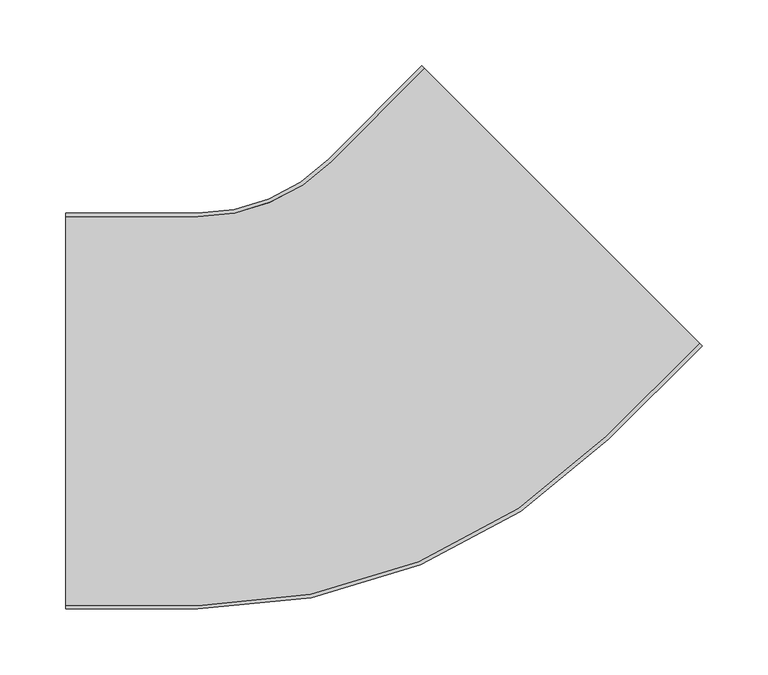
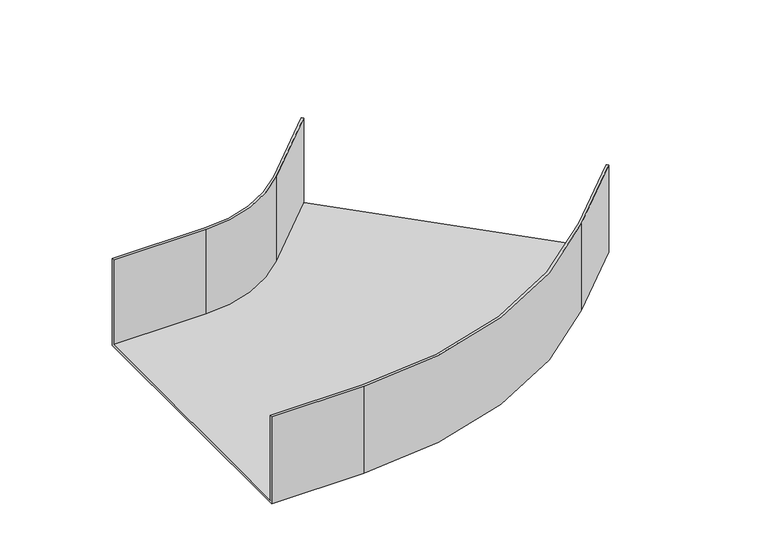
"""IFC4 building model written with IfcOpenShell, lengths in millimetres: cable carrier fitting geometry, BAKS_Horizontal bend radius : KKPJ/KKMPJ_H100."""

from ifc_helpers import new_model, si_unit, frame, origin, place, context, project, spatial, polyline, circle_curve, source, transform, mapped, element, save
from ifc_brep_helpers import plane_surface, cylinder_surface, revolved_surface, advanced_brep


def cable_carrier_fitting_1d3f857e(model_context):
    return source(origin(), model_context, "Body", "AdvancedBrep", [
        advanced_brep(
        [(-220.1219331, -150.0, -50.0), (-220.1219331, -150.0, 50.0), (-220.1219331, -147.46, 50.0), (-220.1219331, -147.46, -47.46), (-220.1219331, 147.46, -47.46), (-220.1219331, 147.46, 50.0), (-220.1219331, 150.0, 50.0), (-220.1219331, 150.0, -50.0), (261.7157288, 49.5836944, -50.0), (49.5836944, 261.7157288, -50.0), (49.5836944, 261.7157288, 50.0), (51.3797456, 259.9196775, 50.0), (51.3797456, 259.9196775, -47.46), (259.9196775, 51.3797456, -47.46), (259.9196775, 51.3797456, 50.0), (261.7157288, 49.5836944, 50.0), (-120.1219331, -150.0, -50.0), (-120.1219331, -150.0, 50.0), (191.0050506, -21.1269837, 50.0), (189.2089994, -19.3309325, 50.0), (-120.1219331, -147.46, 50.0), (-120.1219331, -147.46, -47.46), (189.2089994, -19.3309325, -47.46), (-19.3309325, 189.2089994, -47.46), (-120.1219331, 147.46, -47.46), (-120.1219331, 147.46, 50.0), (-19.3309325, 189.2089994, 50.0), (-21.1269837, 191.0050506, 50.0), (-120.1219331, 150.0, 50.0), (-120.1219331, 150.0, -50.0), (-21.1269837, 191.0050506, -50.0), (191.0050506, -21.1269837, -50.0)],
        [
            (0, 1),
            (1, 2),
            (2, 3),
            (3, 4),
            (4, 5),
            (5, 6),
            (6, 7),
            (7, 0),
            (8, 9),
            (9, 10),
            (10, 11),
            (11, 12),
            (12, 13),
            (13, 14),
            (14, 15),
            (15, 8),
            (0, 16),
            (16, 17),
            (17, 1),
            (17, 18, circle_curve(frame((-120.1219331, 290.0, 50.0), z_axis=(0.0, 0.0, 1.0), x_axis=(0.0, -1.0, 0.0)), 440.0)),
            (18, 15),
            (14, 19),
            (19, 20, circle_curve(frame((-120.1219331, 290.0, 50.0), z_axis=(0.0, 0.0, -1.0), x_axis=(0.0, -1.0, 0.0)), 437.46)),
            (20, 2),
            (20, 21),
            (21, 3),
            (21, 22, circle_curve(frame((-120.1219331, 290.0, -47.46), z_axis=(0.0, 0.0, 1.0), x_axis=(0.0, -1.0, 0.0)), 437.46)),
            (22, 13),
            (12, 23),
            (23, 24, circle_curve(frame((-120.1219331, 290.0, -47.46), z_axis=(0.0, 0.0, -1.0), x_axis=(0.0, -1.0, 0.0)), 142.54)),
            (24, 4),
            (24, 25),
            (25, 5),
            (25, 26, circle_curve(frame((-120.1219331, 290.0, 50.0), z_axis=(0.0, 0.0, 1.0), x_axis=(0.0, -1.0, 0.0)), 142.54)),
            (26, 11),
            (10, 27),
            (27, 28, circle_curve(frame((-120.1219331, 290.0, 50.0), z_axis=(0.0, 0.0, -1.0), x_axis=(0.0, -1.0, 0.0)), 140.0)),
            (28, 6),
            (28, 29),
            (29, 7),
            (29, 30, circle_curve(frame((-120.1219331, 290.0, -50.0), z_axis=(0.0, 0.0, 1.0), x_axis=(0.0, -1.0, 0.0)), 140.0)),
            (30, 9),
            (8, 31),
            (31, 16, circle_curve(frame((-120.1219331, 290.0, -50.0), z_axis=(0.0, 0.0, -1.0), x_axis=(0.0, -1.0, 0.0)), 440.0)),
            (31, 18),
            (19, 22),
            (23, 26),
            (27, 30),
        ],
        [
            plane_surface(frame((-220.1219331, 0.0, 0.0), z_axis=(-1.0, 0.0, 0.0), x_axis=(0.0, 0.0, 1.0))),
            plane_surface(frame((155.6497116, 155.6497116, 0.0), z_axis=(0.7071067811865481, 0.7071067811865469, 0.0), x_axis=(0.0, 0.0, 1.0))),
            plane_surface(frame((-220.1219331, -150.0, -50.0), z_axis=(0.0, -1.0, 0.0), x_axis=(1.0, 0.0, 0.0))),
            plane_surface(frame((-220.1219331, -150.0, 50.0), z_axis=(0.0, 0.0, 1.0), x_axis=(1.0, 0.0, 0.0))),
            plane_surface(frame((-220.1219331, -147.46, 50.0), z_axis=(0.0, 1.0, 0.0), x_axis=(1.0, 0.0, 0.0))),
            plane_surface(frame((-220.1219331, -147.46, -47.46), z_axis=(0.0, 0.0, 1.0), x_axis=(1.0, 0.0, 0.0))),
            plane_surface(frame((-220.1219331, 147.46, -47.46), z_axis=(0.0, -1.0, 0.0), x_axis=(1.0, 0.0, 0.0))),
            plane_surface(frame((-220.1219331, 147.46, 50.0), z_axis=(0.0, 0.0, 1.0), x_axis=(1.0, 0.0, 0.0))),
            plane_surface(frame((-220.1219331, 150.0, 50.0), z_axis=(0.0, 1.0, 0.0), x_axis=(1.0, 0.0, 0.0))),
            plane_surface(frame((-220.1219331, 150.0, -50.0), z_axis=(0.0, 0.0, -1.0), x_axis=(1.0, 0.0, 0.0))),
            cylinder_surface(frame((-120.1219331, 290.0, 0.0), z_axis=(0.0, 0.0, 1.0), x_axis=(0.0, -1.0, 0.0)), 440.0),
            revolved_surface(polyline([(-120.1219331, -147.45999999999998, 50.0), (-120.1219331, -147.45999999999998, -47.46)]), (-120.1219331, 290.0, 0.0), (0.0, 0.0, 1.0)),
            cylinder_surface(frame((-120.1219331, 290.0, 0.0), z_axis=(0.0, 0.0, 1.0), x_axis=(0.0, -1.0, 0.0)), 142.54),
            revolved_surface(polyline([(-120.1219331, 150.0, 50.0), (-120.1219331, 150.0, -50.0)]), (-120.1219331, 290.0, 0.0), (0.0, 0.0, 1.0)),
            plane_surface(frame((191.0050506, -21.1269837, -50.0), z_axis=(0.7071067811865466, -0.7071067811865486, 0.0), x_axis=(0.7071067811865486, 0.7071067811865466, 0.0))),
            plane_surface(frame((189.2089994, -19.3309325, 50.0), z_axis=(-0.7071067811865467, 0.7071067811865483, 0.0), x_axis=(0.7071067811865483, 0.7071067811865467, 0.0))),
            plane_surface(frame((-19.3309325, 189.2089994, -47.46), z_axis=(0.7071067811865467, -0.7071067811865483, 0.0), x_axis=(0.7071067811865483, 0.7071067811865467, 0.0))),
            plane_surface(frame((-21.1269837, 191.0050506, 50.0), z_axis=(-0.7071067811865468, 0.7071067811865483, 0.0), x_axis=(0.7071067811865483, 0.7071067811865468, 0.0))),
        ],
        [
            (0, [[1, 2, 3, 4, 5, 6, 7, 8]]),
            (1, [[9, 10, 11, 12, 13, 14, 15, 16]]),
            (2, [[-1, 17, 18, 19]]),
            (3, [[-2, -19, 20, 21, -15, 22, 23, 24]]),
            (4, [[-3, -24, 25, 26]]),
            (5, [[-4, -26, 27, 28, -13, 29, 30, 31]]),
            (6, [[-5, -31, 32, 33]]),
            (7, [[-6, -33, 34, 35, -11, 36, 37, 38]]),
            (8, [[-7, -38, 39, 40]]),
            (9, [[-8, -40, 41, 42, -9, 43, 44, -17]]),
            (10, [[-20, -18, -44, 45]]),
            (11, [[-27, -25, -23, 46]]),
            (12, [[-34, -32, -30, 47]]),
            (13, [[-41, -39, -37, 48]]),
            (14, [[-45, -43, -16, -21]]),
            (15, [[-46, -22, -14, -28]]),
            (16, [[-47, -29, -12, -35]]),
            (17, [[-48, -36, -10, -42]]),
        ],
    ),
    ])


if __name__ == "__main__":
    model = new_model("IFC4")
    model_context = context("Model", 3, world=origin())
    ifc_project = project(units=[si_unit("LENGTHUNIT", "METRE", prefix="MILLI")], contexts=[model_context])
    site = spatial("IfcSite", under=ifc_project)
    building = spatial("IfcBuilding", under=site)
    placement = place(None, origin())
    cable_carrier_fitting_shape = cable_carrier_fitting_1d3f857e(model_context)
    element("IfcCableCarrierFitting", 1, ObjectType="BAKS_Horizontal bend radius : KKPJ/KKMPJ_H100", at=placement, inside=building, context=model_context, shape_type="MappedRepresentation", body=[
        mapped(cable_carrier_fitting_shape, transform((0.0, 0.0, 0.0), x_axis=(1.0, 0.0, 0.0), y_axis=(0.0, 1.0, 0.0), z_axis=(0.0, 0.0, 1.0))),
    ])
    save(model, "model.ifc")
